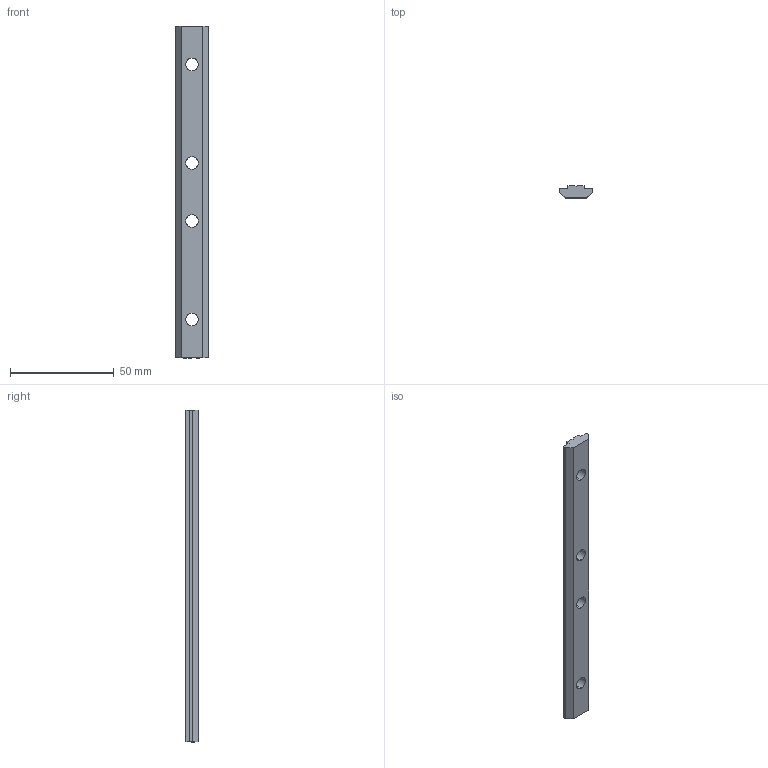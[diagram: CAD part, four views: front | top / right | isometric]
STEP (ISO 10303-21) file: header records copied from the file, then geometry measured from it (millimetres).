
FILE_DESCRIPTION (( 'STEP AP214' ), '1' );
FILE_NAME ('2027 îáëåã÷åííàÿ.STEP', '2022-12-07T14:09:53', ( '' ), ( '' ), 'SwSTEP 2.0', 'SolidWorks 2020', '' );
FILE_SCHEMA (( 'AUTOMOTIVE_DESIGN' ));
Length unit declared in the file: millimetre
Products named in the file (1): 2027 îáëåã÷åííàÿ
Bounding box: 15.8 x 5.8 x 160.01 mm (x, y, z)
Volume: 10893.2 mm3; surface area: 7282.8 mm2
Topology: 12 solids, 12 shells, 136 faces, 340 edges, 224 vertices
Faces by surface type: plane 96, bspline 32, cylinder 8
Entity records: 7040 total; most frequent: CARTESIAN_POINT 2733, ORIENTED_EDGE 680, DIRECTION 486, EDGE_CURVE 340, VECTOR 244, LINE 244, VERTEX_POINT 224, EDGE_LOOP 140
